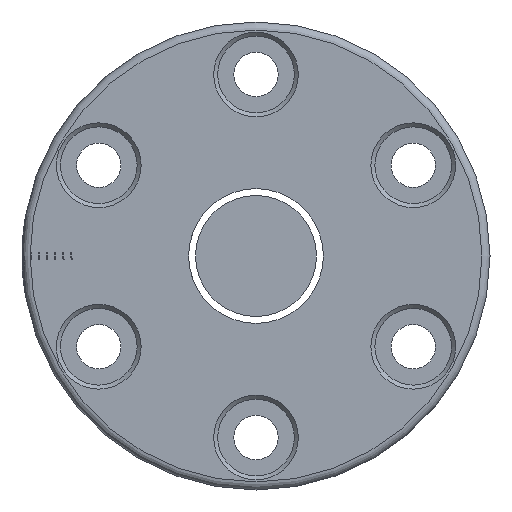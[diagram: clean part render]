
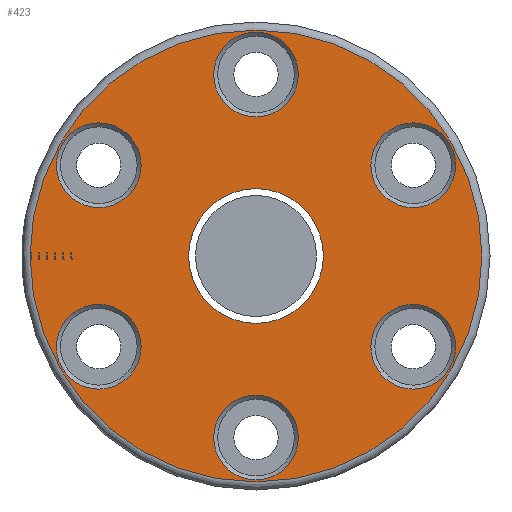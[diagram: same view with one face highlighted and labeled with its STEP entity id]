
A CAD part, left-side view. The second image highlights one B-rep face of the part: STEP entity #423.
In plain terms, the highlighted planar face has unit normal (-1, 0, 0).
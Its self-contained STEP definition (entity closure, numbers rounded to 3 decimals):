
#4 = EDGE_CURVE ( 'NONE', #676, #676, #1978, .T. ) ;
#7 = DIRECTION ( 'NONE',  ( 1., 0., 0. ) ) ;
#15 = EDGE_LOOP ( 'NONE', ( #755 ) ) ;
#125 = ORIENTED_EDGE ( 'NONE', *, *, #2467, .T. ) ;
#164 = ORIENTED_EDGE ( 'NONE', *, *, #1013, .T. ) ;
#205 = VERTEX_POINT ( 'NONE', #2511 ) ;
#232 = FACE_BOUND ( 'NONE', #2750, .T. ) ;
#240 = DIRECTION ( 'NONE',  ( 1., 0., 0. ) ) ;
#263 = VERTEX_POINT ( 'NONE', #680 ) ;
#278 = CARTESIAN_POINT ( 'NONE',  ( -57., 0., 27.75 ) ) ;
#292 = DIRECTION ( 'NONE',  ( 0., 0., 1. ) ) ;
#333 = CARTESIAN_POINT ( 'NONE',  ( -57., 19.486, 11.25 ) ) ;
#353 = CIRCLE ( 'NONE', #2308, 8.35 ) ;
#423 = ADVANCED_FACE ( 'NONE', ( #1364, #2322, #712, #2111, #1416, #2336, #2288, #232 ), #1620, .T. ) ;
#425 = DIRECTION ( 'NONE',  ( 1., 0., 0. ) ) ;
#493 = EDGE_LOOP ( 'NONE', ( #1790 ) ) ;
#495 = AXIS2_PLACEMENT_3D ( 'NONE', #1601, #7, #2259 ) ;
#498 = CIRCLE ( 'NONE', #495, 5.25 ) ;
#540 = VERTEX_POINT ( 'NONE', #278 ) ;
#587 = CARTESIAN_POINT ( 'NONE',  ( -57., 19.486, -11.25 ) ) ;
#599 = CARTESIAN_POINT ( 'NONE',  ( -57., 0., -22.5 ) ) ;
#624 = DIRECTION ( 'NONE',  ( -1., 0., 0. ) ) ;
#631 = EDGE_CURVE ( 'NONE', #263, #263, #1014, .T. ) ;
#676 = VERTEX_POINT ( 'NONE', #724 ) ;
#680 = CARTESIAN_POINT ( 'NONE',  ( -57., 0., -17.25 ) ) ;
#712 = FACE_BOUND ( 'NONE', #15, .T. ) ;
#724 = CARTESIAN_POINT ( 'NONE',  ( -57., 0., 28. ) ) ;
#733 = CIRCLE ( 'NONE', #1106, 5.25 ) ;
#755 = ORIENTED_EDGE ( 'NONE', *, *, #1712, .T. ) ;
#785 = EDGE_LOOP ( 'NONE', ( #125 ) ) ;
#836 = EDGE_CURVE ( 'NONE', #1619, #1619, #353, .T. ) ;
#851 = DIRECTION ( 'NONE',  ( 0., 0., 1. ) ) ;
#859 = DIRECTION ( 'NONE',  ( 0., 0., 1. ) ) ;
#900 = VERTEX_POINT ( 'NONE', #2260 ) ;
#916 = CIRCLE ( 'NONE', #2695, 5.25 ) ;
#921 = DIRECTION ( 'NONE',  ( -1., 0., 0. ) ) ;
#1013 = EDGE_CURVE ( 'NONE', #900, #900, #1104, .T. ) ;
#1014 = CIRCLE ( 'NONE', #1927, 5.25 ) ;
#1104 = CIRCLE ( 'NONE', #2786, 5.25 ) ;
#1106 = AXIS2_PLACEMENT_3D ( 'NONE', #587, #1491, #851 ) ;
#1141 = CARTESIAN_POINT ( 'NONE',  ( -57., 29., 0. ) ) ;
#1205 = VERTEX_POINT ( 'NONE', #2351 ) ;
#1254 = AXIS2_PLACEMENT_3D ( 'NONE', #1758, #624, #859 ) ;
#1312 = ORIENTED_EDGE ( 'NONE', *, *, #4, .T. ) ;
#1334 = DIRECTION ( 'NONE',  ( 0., 0., 1. ) ) ;
#1353 = EDGE_CURVE ( 'NONE', #1561, #1561, #733, .T. ) ;
#1364 = FACE_OUTER_BOUND ( 'NONE', #2222, .T. ) ;
#1409 = CARTESIAN_POINT ( 'NONE',  ( -57., -19.486, 11.25 ) ) ;
#1416 = FACE_BOUND ( 'NONE', #2084, .T. ) ;
#1448 = EDGE_LOOP ( 'NONE', ( #2651 ) ) ;
#1463 = DIRECTION ( 'NONE',  ( 1., 0., 0. ) ) ;
#1491 = DIRECTION ( 'NONE',  ( 1., 0., 0. ) ) ;
#1502 = DIRECTION ( 'NONE',  ( 1., 0., 0. ) ) ;
#1561 = VERTEX_POINT ( 'NONE', #2063 ) ;
#1595 = CARTESIAN_POINT ( 'NONE',  ( -57., 0., 0. ) ) ;
#1601 = CARTESIAN_POINT ( 'NONE',  ( -57., 0., 22.5 ) ) ;
#1618 = CARTESIAN_POINT ( 'NONE',  ( -57., -19.486, -11.25 ) ) ;
#1619 = VERTEX_POINT ( 'NONE', #1801 ) ;
#1620 = PLANE ( 'NONE',  #2648 ) ;
#1712 = EDGE_CURVE ( 'NONE', #205, #205, #916, .T. ) ;
#1758 = CARTESIAN_POINT ( 'NONE',  ( -57., 0., 0. ) ) ;
#1790 = ORIENTED_EDGE ( 'NONE', *, *, #631, .T. ) ;
#1799 = EDGE_LOOP ( 'NONE', ( #1920 ) ) ;
#1801 = CARTESIAN_POINT ( 'NONE',  ( -57., 0., -8.35 ) ) ;
#1920 = ORIENTED_EDGE ( 'NONE', *, *, #1353, .T. ) ;
#1927 = AXIS2_PLACEMENT_3D ( 'NONE', #599, #1502, #292 ) ;
#1978 = CIRCLE ( 'NONE', #1254, 28. ) ;
#2042 = DIRECTION ( 'NONE',  ( 0., 0., -1. ) ) ;
#2063 = CARTESIAN_POINT ( 'NONE',  ( -57., 19.486, -6. ) ) ;
#2065 = DIRECTION ( 'NONE',  ( 0., 0., 1. ) ) ;
#2084 = EDGE_LOOP ( 'NONE', ( #164 ) ) ;
#2111 = FACE_BOUND ( 'NONE', #785, .T. ) ;
#2222 = EDGE_LOOP ( 'NONE', ( #1312 ) ) ;
#2226 = CIRCLE ( 'NONE', #2696, 5.25 ) ;
#2259 = DIRECTION ( 'NONE',  ( 0., 0., 1. ) ) ;
#2260 = CARTESIAN_POINT ( 'NONE',  ( -57., 19.486, 16.5 ) ) ;
#2288 = FACE_BOUND ( 'NONE', #493, .T. ) ;
#2308 = AXIS2_PLACEMENT_3D ( 'NONE', #1595, #2548, #2042 ) ;
#2322 = FACE_BOUND ( 'NONE', #1448, .T. ) ;
#2336 = FACE_BOUND ( 'NONE', #1799, .T. ) ;
#2337 = EDGE_CURVE ( 'NONE', #1205, #1205, #2226, .T. ) ;
#2351 = CARTESIAN_POINT ( 'NONE',  ( -57., -19.486, -6. ) ) ;
#2467 = EDGE_CURVE ( 'NONE', #540, #540, #498, .T. ) ;
#2511 = CARTESIAN_POINT ( 'NONE',  ( -57., -19.486, 16.5 ) ) ;
#2522 = DIRECTION ( 'NONE',  ( 0., 0., 1. ) ) ;
#2548 = DIRECTION ( 'NONE',  ( 1., 0., 0. ) ) ;
#2559 = DIRECTION ( 'NONE',  ( 0., 0., 1. ) ) ;
#2648 = AXIS2_PLACEMENT_3D ( 'NONE', #1141, #921, #2065 ) ;
#2651 = ORIENTED_EDGE ( 'NONE', *, *, #2337, .T. ) ;
#2695 = AXIS2_PLACEMENT_3D ( 'NONE', #1409, #240, #2522 ) ;
#2696 = AXIS2_PLACEMENT_3D ( 'NONE', #1618, #425, #1334 ) ;
#2750 = EDGE_LOOP ( 'NONE', ( #2905 ) ) ;
#2786 = AXIS2_PLACEMENT_3D ( 'NONE', #333, #1463, #2559 ) ;
#2905 = ORIENTED_EDGE ( 'NONE', *, *, #836, .T. ) ;
